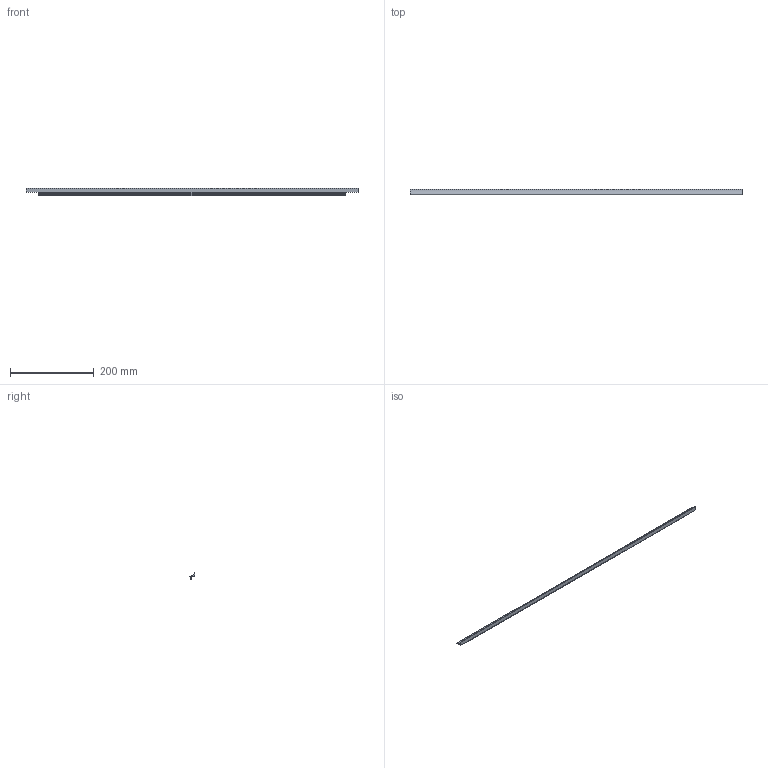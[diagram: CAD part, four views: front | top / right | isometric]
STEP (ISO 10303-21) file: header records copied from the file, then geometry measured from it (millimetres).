
FILE_DESCRIPTION( ( 'STEP AP214' ), '1' );
FILE_NAME( 'D:/Shahbaz D&D/Task/Working-ON/Correct Handle bar Riaza/QC/9208094/9208094.stp', '2023-03-13T09:06:26', ( '' ), ( '' ), ' ', 'PARTsolutions', ' ' );
FILE_SCHEMA( ( 'AUTOMOTIVE_DESIGN { 1 0 10303 214 1 1 1 1 }' ) );
Length unit declared in the file: millimetre
Products named in the file (1): _9208094
Bounding box: 795 x 12.49 x 17.98 mm (x, y, z)
Volume: 45125.8 mm3; surface area: 46357.3 mm2
Topology: 1 solids, 1 shells, 28 faces, 75 edges, 50 vertices
Faces by surface type: plane 25, cylinder 3
Entity records: 1105 total; most frequent: CARTESIAN_POINT 154, ORIENTED_EDGE 150, DIRECTION 139, EDGE_CURVE 75, LINE 69, VECTOR 69, VERTEX_POINT 50, AXIS2_PLACEMENT_3D 35
